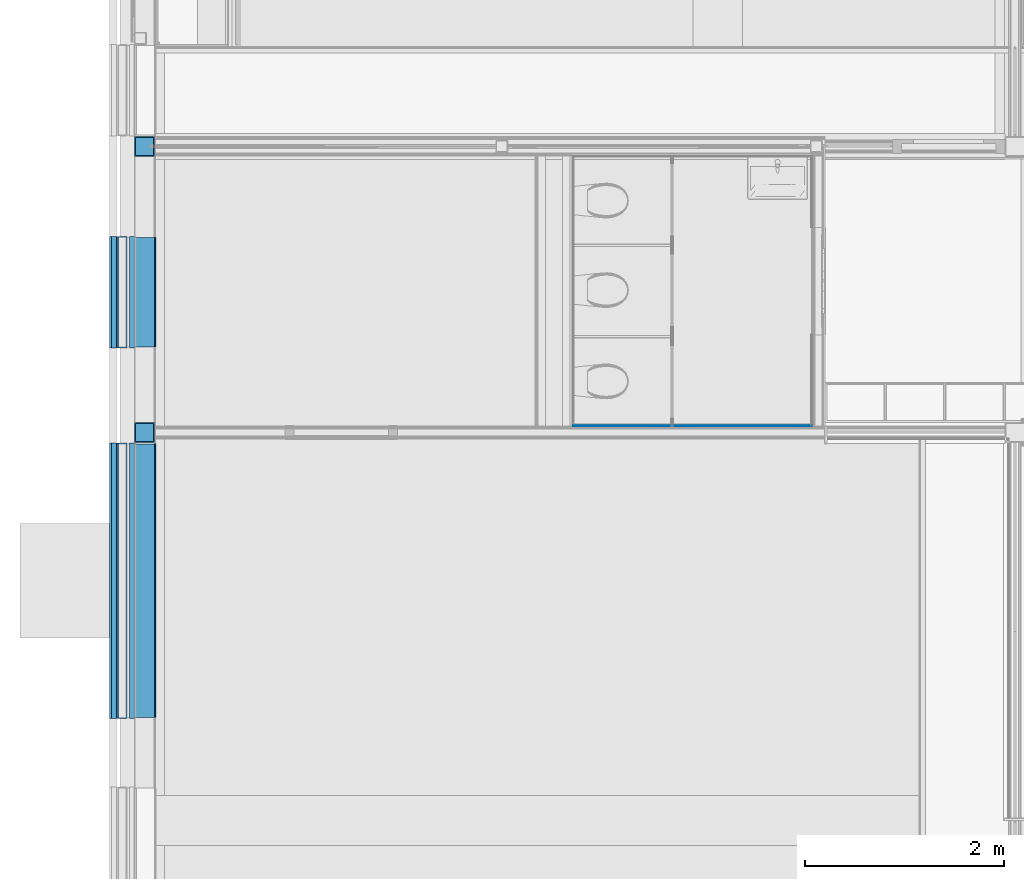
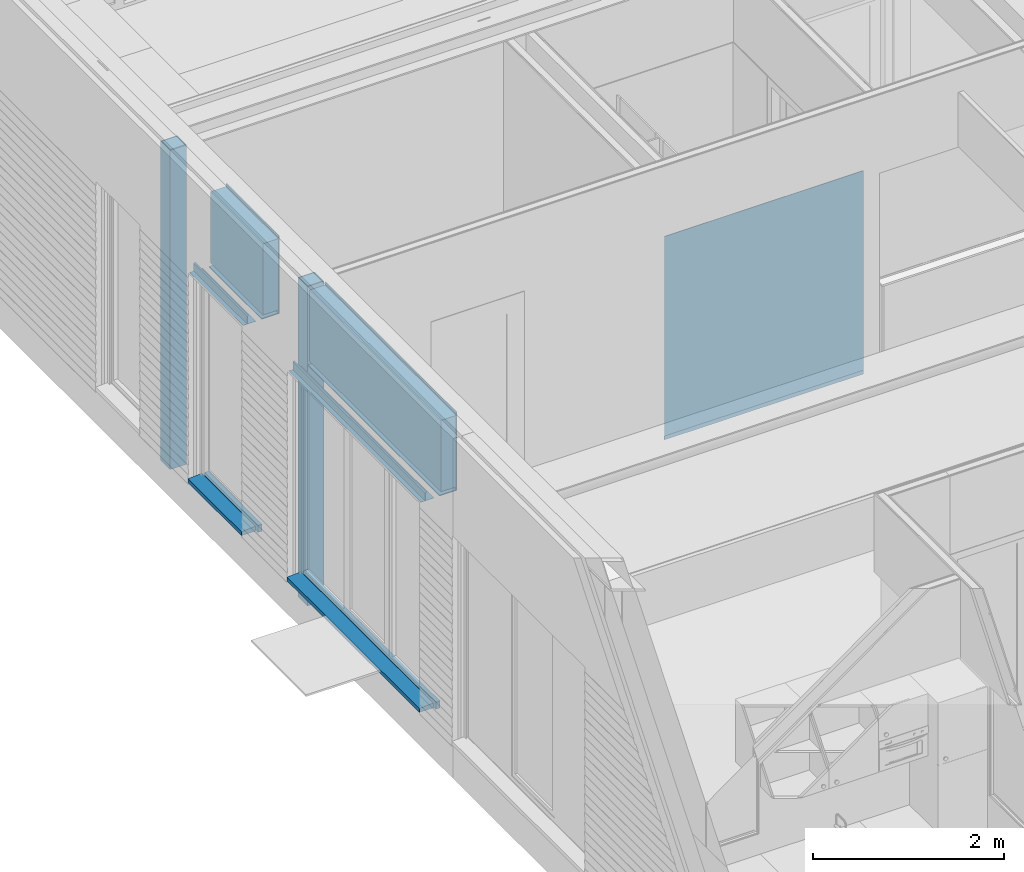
# One storey, part 76 of 165: 20 building element parts, 9 elements without a shape of their own.
"""IFC2X3 building model written with IfcOpenShell, lengths in millimetres."""

from ifc_helpers import new_model, entity, si_unit, converted_unit, derived_unit, money_unit, direction, frame, origin_with_axes, place, context, subcontext, project, spatial, faceted_brep, material, type_object, element, aggregate, save


model = new_model("IFC2X3")

# Units and contexts
model_context = context("Model", 3, precision=0.01, world=origin_with_axes(), true_north=direction((0.0, 1.0)))
body_context = subcontext(model_context, "Body", "Model", "MODEL_VIEW")
ifc_project = project(units=[si_unit("LENGTHUNIT", "METRE", prefix="MILLI"), si_unit("AREAUNIT", "SQUARE_METRE"), si_unit("VOLUMEUNIT", "CUBIC_METRE"), converted_unit("PLANEANGLEUNIT", "DEGREE", entity("IfcPlaneAngleMeasure", 0.0174532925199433), si_unit("PLANEANGLEUNIT", "RADIAN"), dimensions=[0, 0, 0, 0, 0, 0, 0]), money_unit("EUR"), converted_unit("TIMEUNIT", "Year", entity("IfcTimeMeasure", 31556926.0), si_unit("TIMEUNIT", "SECOND"), dimensions=[0, 0, 1, 0, 0, 0, 0]), si_unit("MASSUNIT", "GRAM", prefix="KILO"), si_unit("THERMODYNAMICTEMPERATUREUNIT", "DEGREE_CELSIUS"), si_unit("LUMINOUSINTENSITYUNIT", "LUMEN"), si_unit("ENERGYUNIT", "JOULE", prefix="MEGA"), derived_unit("THERMALCONDUCTANCEUNIT", [(si_unit("POWERUNIT", "WATT"), 1), (si_unit("LENGTHUNIT", "METRE"), -1), (si_unit("THERMODYNAMICTEMPERATUREUNIT", "KELVIN"), -1)]), derived_unit("SPECIFICHEATCAPACITYUNIT", [(si_unit("ENERGYUNIT", "JOULE"), 1), (si_unit("MASSUNIT", "GRAM", prefix="KILO"), -1), (si_unit("THERMODYNAMICTEMPERATUREUNIT", "KELVIN"), -1)]), derived_unit("MASSDENSITYUNIT", [(si_unit("MASSUNIT", "GRAM", prefix="KILO"), 1), (si_unit("VOLUMEUNIT", "CUBIC_METRE"), -1)])], contexts=[model_context])

# Site, building, storey
site_placement = place(None, origin_with_axes())
site = spatial("IfcSite", under=ifc_project, at=site_placement, Name="Site", CompositionType="ELEMENT")
building_placement = place(site_placement, origin_with_axes())
building = spatial("IfcBuilding", under=site, at=building_placement, Name="Naam gebouw", CompositionType="ELEMENT")
storey_placement = place(building_placement, origin_with_axes())
storey = spatial("IfcBuildingStorey", under=building, at=storey_placement, Name="Begane grond", CompositionType="ELEMENT", Elevation=0.0)

# Column, building element parts
column_type = type_object("IfcColumnType", Name="200X200X10 200 x 200", PredefinedType="COLUMN")
column_1_placement = place(storey_placement, frame((99.99999999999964, 19449.9998112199, -480.0), z_axis=(0.0, 0.0, 1.0), x_axis=(1.0, 0.0, 0.0)))
column_1 = element("IfcColumn", 1, at=column_1_placement, inside=storey, type_object=column_type, Name="28_Kolom-x", ObjectType="COLUMN")
ifc_material_1 = material(Name="Metaal - Staal C")
building_element_part_1_placement = place(column_1_placement, origin_with_axes())
building_element_part_1 = element("IfcBuildingElementPart", 2, at=building_element_part_1_placement, material=ifc_material_1, Name="Metaal - Staal C", context=body_context, shape_type="Brep", body=[
    faceted_brep([(-100.0, -100.0000000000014, 0.0), (100.0, -100.0000000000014, 0.0), (100.0, -100.0000000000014, 4079.999999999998), (-100.0, -100.0000000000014, 4079.999999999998), (-100.0, 100.0000000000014, 0.0), (100.0, 100.0000000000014, 0.0), (-90.00000000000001, -89.99999999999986, 0.0), (90.00000000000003, -89.99999999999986, 0.0), (90.00000000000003, 89.99999999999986, 0.0), (-90.00000000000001, 89.99999999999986, 0.0), (100.0, 100.0000000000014, 4079.999999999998), (-100.0, 100.0000000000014, 4079.999999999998), (-90.00000000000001, -89.99999999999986, 4079.999999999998), (-90.00000000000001, 89.99999999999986, 4079.999999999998), (90.00000000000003, 89.99999999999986, 4079.999999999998), (90.00000000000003, -89.99999999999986, 4079.999999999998)], [[[0, 1, 2, 3]], [[0, 4, 5, 1], [6, 7, 8, 9]], [[1, 5, 10, 2]], [[3, 2, 10, 11], [12, 13, 14, 15]], [[4, 0, 3, 11]], [[5, 4, 11, 10]], [[7, 6, 12, 15]], [[8, 7, 15, 14]], [[9, 8, 14, 13]], [[6, 9, 13, 12]]]),
])
ifc_material_2 = material(Name="Beton gewapend C")
building_element_part_2_placement = place(column_1_placement, origin_with_axes())
building_element_part_2 = element("IfcBuildingElementPart", 3, at=building_element_part_2_placement, material=ifc_material_2, Name="Beton gewapend C", context=body_context, shape_type="Brep", body=[
    faceted_brep([(-89.99999999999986, 89.99999999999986, 4059.999999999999), (89.99999999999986, 89.99999999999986, 4059.999999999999), (89.99999999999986, 89.99999999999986, 0.0), (-89.99999999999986, 89.99999999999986, 0.0), (89.99999999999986, -89.99999999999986, 4059.999999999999), (-89.99999999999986, -89.99999999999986, 4059.999999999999), (89.99999999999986, -89.99999999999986, 0.0), (-89.99999999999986, -89.99999999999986, 0.0)], [[[0, 1, 2, 3]], [[4, 1, 0, 5]], [[1, 4, 6, 2]], [[2, 6, 7, 3]], [[5, 0, 3, 7]], [[4, 5, 7, 6]]]),
    faceted_brep([(89.99999999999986, -89.99999999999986, 4074.999999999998), (89.99999999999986, 89.99999999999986, 4074.999999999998), (89.99999999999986, 89.99999999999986, 4079.999999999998), (89.99999999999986, -89.99999999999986, 4079.999999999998), (-89.99999999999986, 89.99999999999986, 4074.999999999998), (-89.99999999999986, -89.99999999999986, 4074.999999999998), (-89.99999999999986, 89.99999999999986, 4079.999999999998), (-89.99999999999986, -89.99999999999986, 4079.999999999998)], [[[0, 1, 2, 3]], [[4, 1, 0, 5]], [[1, 4, 6, 2]], [[2, 6, 7, 3]], [[5, 0, 3, 7]], [[4, 5, 7, 6]]]),
])
aggregate(column_1, [building_element_part_1, building_element_part_2])

column_2_placement = place(storey_placement, frame((100.0000000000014, 22324.99984707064, -480.0), z_axis=(0.0, 0.0, 1.0), x_axis=(1.0, 0.0, 0.0)))
column_2 = element("IfcColumn", 4, at=column_2_placement, inside=storey, type_object=column_type, Name="28_Kolom-x", ObjectType="COLUMN")
building_element_part_3_placement = place(column_2_placement, origin_with_axes())
building_element_part_3 = element("IfcBuildingElementPart", 5, at=building_element_part_3_placement, material=ifc_material_2, Name="Beton gewapend C", context=body_context, shape_type="Brep", body=[
    faceted_brep([(-89.99999999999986, 89.99999999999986, 4059.999999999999), (89.99999999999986, 89.99999999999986, 4059.999999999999), (89.99999999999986, 89.99999999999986, 0.0), (-89.99999999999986, 89.99999999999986, 0.0), (89.99999999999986, -89.99999999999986, 4059.999999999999), (-89.99999999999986, -89.99999999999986, 4059.999999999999), (89.99999999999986, -89.99999999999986, 0.0), (-89.99999999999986, -89.99999999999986, 0.0)], [[[0, 1, 2, 3]], [[4, 1, 0, 5]], [[1, 4, 6, 2]], [[2, 6, 7, 3]], [[5, 0, 3, 7]], [[4, 5, 7, 6]]]),
    faceted_brep([(89.99999999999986, -89.99999999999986, 4074.999999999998), (89.99999999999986, 89.99999999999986, 4074.999999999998), (89.99999999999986, 89.99999999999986, 4079.999999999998), (89.99999999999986, -89.99999999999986, 4079.999999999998), (-89.99999999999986, 89.99999999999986, 4074.999999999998), (-89.99999999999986, -89.99999999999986, 4074.999999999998), (-89.99999999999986, 89.99999999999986, 4079.999999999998), (-89.99999999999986, -89.99999999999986, 4079.999999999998)], [[[0, 1, 2, 3]], [[4, 1, 0, 5]], [[1, 4, 6, 2]], [[2, 6, 7, 3]], [[5, 0, 3, 7]], [[4, 5, 7, 6]]]),
])
building_element_part_4_placement = place(column_2_placement, origin_with_axes())
building_element_part_4 = element("IfcBuildingElementPart", 6, at=building_element_part_4_placement, material=ifc_material_1, Name="Metaal - Staal C", context=body_context, shape_type="Brep", body=[
    faceted_brep([(-100.0, -100.0000000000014, 0.0), (100.0, -100.0000000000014, 0.0), (100.0, -100.0000000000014, 4079.999999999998), (-100.0, -100.0000000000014, 4079.999999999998), (-100.0, 100.0000000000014, 0.0), (100.0, 100.0000000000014, 0.0), (-90.00000000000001, -89.99999999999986, 0.0), (90.00000000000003, -89.99999999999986, 0.0), (90.00000000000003, 89.99999999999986, 0.0), (-90.00000000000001, 89.99999999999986, 0.0), (100.0, 100.0000000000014, 4079.999999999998), (-100.0, 100.0000000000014, 4079.999999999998), (-90.00000000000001, -89.99999999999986, 4079.999999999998), (-90.00000000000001, 89.99999999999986, 4079.999999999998), (90.00000000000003, 89.99999999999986, 4079.999999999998), (90.00000000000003, -89.99999999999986, 4079.999999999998)], [[[0, 1, 2, 3]], [[0, 4, 5, 1], [6, 7, 8, 9]], [[1, 5, 10, 2]], [[3, 2, 10, 11], [12, 13, 14, 15]], [[4, 0, 3, 11]], [[5, 4, 11, 10]], [[7, 6, 12, 15]], [[8, 7, 15, 14]], [[9, 8, 14, 13]], [[6, 9, 13, 12]]]),
])
aggregate(column_2, [building_element_part_3, building_element_part_4])

# Beam, building element parts
beam_type_1 = type_object("IfcBeamType", Name="41 Latei/geveldrager 158 x 112", PredefinedType="BEAM")
beam_1_placement = place(storey_placement, frame((-180.0000861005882, 16574.99981122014, 2610.0), z_axis=(0.0, 0.0, 1.0), x_axis=(1.0, 0.0, 0.0)))
beam_1 = element("IfcBeam", 7, at=beam_1_placement, inside=storey, type_object=beam_type_1, Name="_Regenwaterafvoer-x", ObjectType="BEAM")
building_element_part_5_placement = place(beam_1_placement, origin_with_axes())
building_element_part_5 = element("IfcBuildingElementPart", 8, at=building_element_part_5_placement, material=ifc_material_1, Name="Metaal - Staal C", context=body_context, shape_type="Brep", body=[
    faceted_brep([(3.000000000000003, 2770.000000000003, -3.000000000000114), (108.0, 2770.000000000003, -3.000000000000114), (108.0, 0.0, -3.000000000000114), (3.000000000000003, 0.0, -3.000000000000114), (3.000000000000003, 2770.000000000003, 0.0), (108.0, 2770.000000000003, 0.0), (108.0, 0.0, 0.0), (3.000000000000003, 0.0, 0.0)], [[[0, 1, 2, 3]], [[0, 4, 5, 1]], [[1, 5, 6, 2]], [[3, 2, 6, 7]], [[4, 0, 3, 7]], [[5, 4, 7, 6]]]),
])
building_element_part_6_placement = place(beam_1_placement, origin_with_axes())
building_element_part_6 = element("IfcBuildingElementPart", 9, at=building_element_part_6_placement, material=ifc_material_1, Name="Metaal - Staal C", context=body_context, shape_type="Brep", body=[
    faceted_brep([(-49.99999999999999, 2770.000000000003, 6.55651533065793e-07), (-49.99999999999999, 2770.000000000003, -3.000000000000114), (-49.99999999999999, 0.0, -3.000000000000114), (-49.99999999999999, 0.0, 6.55651533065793e-07), (-5.960468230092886e-08, 2770.000000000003, 6.55651533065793e-07), (-5.960468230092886e-08, 2770.000000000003, 99.3417707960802), (16.54654975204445, 2770.000000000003, 108.894926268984), (18.04655007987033, 2770.000000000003, 106.296849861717), (3.000000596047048, 2770.000000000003, 96.99999988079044), (3.000000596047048, 2770.000000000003, 6.55651533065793e-07), (3.000000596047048, 2770.000000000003, -3.000000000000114), (3.000000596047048, 0.0, -3.000000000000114), (3.000000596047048, 0.0, 6.55651533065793e-07), (3.000000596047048, 0.0, 96.99999988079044), (18.04655007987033, 0.0, 106.296849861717), (16.54654975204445, 0.0, 108.894926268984), (-5.960468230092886e-08, 0.0, 99.3417707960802), (-5.960468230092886e-08, 0.0, 6.55651533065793e-07)], [[[0, 1, 2, 3]], [[0, 4, 5, 6, 7, 8, 9, 10, 1]], [[1, 10, 11, 2]], [[3, 2, 11, 12, 13, 14, 15, 16, 17]], [[4, 0, 3, 17]], [[5, 4, 17, 16]], [[6, 5, 16, 15]], [[7, 6, 15, 14]], [[8, 7, 14, 13]], [[9, 8, 13, 12]], [[10, 9, 12, 11]]]),
])
aggregate(beam_1, [building_element_part_5, building_element_part_6])

beam_2_placement = place(storey_placement, frame((-179.9999999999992, 20299.9998112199, 2610.0), z_axis=(0.0, 0.0, 1.0), x_axis=(1.0, 0.0, 0.0)))
beam_2 = element("IfcBeam", 10, at=beam_2_placement, inside=storey, type_object=beam_type_1, Name="_Regenwaterafvoer-x", ObjectType="BEAM")
building_element_part_7_placement = place(beam_2_placement, origin_with_axes())
building_element_part_7 = element("IfcBuildingElementPart", 11, at=building_element_part_7_placement, material=ifc_material_1, Name="Metaal - Staal C", context=body_context, shape_type="Brep", body=[
    faceted_brep([(3.000000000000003, 1119.999999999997, -3.000000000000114), (108.0, 1119.999999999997, -3.000000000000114), (108.0, 0.0, -3.000000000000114), (3.000000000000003, 0.0, -3.000000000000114), (3.000000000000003, 1119.999999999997, 0.0), (108.0, 1119.999999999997, 0.0), (108.0, 0.0, 0.0), (3.000000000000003, 0.0, 0.0)], [[[0, 1, 2, 3]], [[0, 4, 5, 1]], [[1, 5, 6, 2]], [[3, 2, 6, 7]], [[4, 0, 3, 7]], [[5, 4, 7, 6]]]),
])
building_element_part_8_placement = place(beam_2_placement, origin_with_axes())
building_element_part_8 = element("IfcBuildingElementPart", 12, at=building_element_part_8_placement, material=ifc_material_1, Name="Metaal - Staal C", context=body_context, shape_type="Brep", body=[
    faceted_brep([(-49.99999999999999, 1119.999999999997, 6.55651533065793e-07), (-49.99999999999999, 1119.999999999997, -3.000000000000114), (-49.99999999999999, 0.0, -3.000000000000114), (-49.99999999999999, 0.0, 6.55651533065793e-07), (-5.960468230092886e-08, 1119.999999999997, 6.55651533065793e-07), (-5.960468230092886e-08, 1119.999999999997, 99.3417707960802), (16.54654975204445, 1119.999999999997, 108.894926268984), (18.04655007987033, 1119.999999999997, 106.296849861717), (3.000000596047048, 1119.999999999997, 96.99999988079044), (3.000000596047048, 1119.999999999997, 6.55651533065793e-07), (3.000000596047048, 1119.999999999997, -3.000000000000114), (3.000000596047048, 0.0, -3.000000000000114), (3.000000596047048, 0.0, 6.55651533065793e-07), (3.000000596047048, 0.0, 96.99999988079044), (18.04655007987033, 0.0, 106.296849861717), (16.54654975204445, 0.0, 108.894926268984), (-5.960468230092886e-08, 0.0, 99.3417707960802), (-5.960468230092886e-08, 0.0, 6.55651533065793e-07)], [[[0, 1, 2, 3]], [[0, 4, 5, 6, 7, 8, 9, 10, 1]], [[1, 10, 11, 2]], [[3, 2, 11, 12, 13, 14, 15, 16, 17]], [[4, 0, 3, 17]], [[5, 4, 17, 16]], [[6, 5, 16, 15]], [[7, 6, 15, 14]], [[8, 7, 14, 13]], [[9, 8, 13, 12]], [[10, 9, 12, 11]]]),
])
aggregate(beam_2, [building_element_part_7, building_element_part_8])

beam_type_2 = type_object("IfcBeamType", Name="31 Betondorpel 250 x 90", PredefinedType="BEAM")
beam_3_placement = place(storey_placement, frame((-249.999999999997, 20299.9998112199, -100.0000000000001), z_axis=(0.0, 0.0, 1.0), x_axis=(1.0, 0.0, 0.0)))
beam_3 = element("IfcBeam", 13, at=beam_3_placement, inside=storey, type_object=beam_type_2, Name="_Regenwaterafvoer-x", ObjectType="BEAM")
ifc_material_3 = material(Name="Isolatie - Kunststof hard")
building_element_part_9_placement = place(beam_3_placement, origin_with_axes())
building_element_part_9 = element("IfcBuildingElementPart", 14, at=building_element_part_9_placement, material=ifc_material_3, Name="Isolatie - Kunststof hard", context=body_context, shape_type="Brep", body=[
    faceted_brep([(200.0, 1119.999999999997, 0.0), (249.9999999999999, 1119.999999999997, 0.0), (250.0, 0.0, 0.0), (200.0, 0.0, 0.0), (200.0, 1119.999999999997, 30.04212815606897), (200.0, 1119.999999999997, 90.00000000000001), (249.9999999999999, 1119.999999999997, 90.00000000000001), (250.0, 0.0, 90.00000000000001), (200.0, 0.0, 90.00000000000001), (200.0, 0.0, 30.04212815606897)], [[[0, 1, 2, 3]], [[0, 4, 5, 6, 1]], [[1, 6, 7, 2]], [[3, 2, 7, 8, 9]], [[4, 0, 3, 9]], [[5, 4, 9, 8]], [[6, 5, 8, 7]]]),
])
ifc_material_4 = material(Name="Beton gewapend prefab")
building_element_part_10_placement = place(beam_3_placement, origin_with_axes())
building_element_part_10 = element("IfcBuildingElementPart", 15, at=building_element_part_10_placement, material=ifc_material_4, Name="Beton gewapend prefab", context=body_context, shape_type="Brep", body=[
    faceted_brep([(0.0, 1119.999999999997, 30.04212834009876), (170.0, 1119.999999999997, 30.04212834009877), (170.0, 0.0, 30.04212834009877), (0.0, 0.0, 30.04212834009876), (0.0, 1119.999999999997, 80.04212834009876), (170.0, 1119.999999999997, 90.04212834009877), (170.0, 1119.999999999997, 90.00000000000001), (170.0, 0.0, 90.00000000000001), (170.0, 0.0, 90.04212834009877), (0.0, 0.0, 80.04212834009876)], [[[0, 1, 2, 3]], [[0, 4, 5, 6, 1]], [[1, 6, 7, 2]], [[3, 2, 7, 8, 9]], [[4, 0, 3, 9]], [[5, 4, 9, 8]], [[6, 5, 8, 7]]]),
])
aggregate(beam_3, [building_element_part_9, building_element_part_10])

beam_4_placement = place(storey_placement, frame((-249.9999999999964, 16574.9998112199, -100.0000000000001), z_axis=(0.0, 0.0, 1.0), x_axis=(1.0, 0.0, 0.0)))
beam_4 = element("IfcBeam", 16, at=beam_4_placement, inside=storey, type_object=beam_type_2, Name="_Regenwaterafvoer-x", ObjectType="BEAM")
building_element_part_11_placement = place(beam_4_placement, origin_with_axes())
building_element_part_11 = element("IfcBuildingElementPart", 17, at=building_element_part_11_placement, material=ifc_material_3, Name="Isolatie - Kunststof hard", context=body_context, shape_type="Brep", body=[
    faceted_brep([(200.0, 2770.000000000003, 0.0), (250.0, 2770.000000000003, 0.0), (250.0, 0.0, 0.0), (200.0, 0.0, 0.0), (200.0, 2770.000000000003, 30.04212815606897), (200.0, 2770.000000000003, 90.00000000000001), (250.0, 2770.000000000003, 90.00000000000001), (250.0, 0.0, 90.00000000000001), (200.0, 0.0, 90.00000000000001), (200.0, 0.0, 30.04212815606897)], [[[0, 1, 2, 3]], [[0, 4, 5, 6, 1]], [[1, 6, 7, 2]], [[3, 2, 7, 8, 9]], [[4, 0, 3, 9]], [[5, 4, 9, 8]], [[6, 5, 8, 7]]]),
])
building_element_part_12_placement = place(beam_4_placement, origin_with_axes())
building_element_part_12 = element("IfcBuildingElementPart", 18, at=building_element_part_12_placement, material=ifc_material_4, Name="Beton gewapend prefab", context=body_context, shape_type="Brep", body=[
    faceted_brep([(0.0, 2770.000000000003, 30.04212834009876), (170.0, 2770.000000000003, 30.04212834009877), (170.0, 0.0, 30.04212834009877), (0.0, 0.0, 30.04212834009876), (0.0, 2770.000000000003, 80.04212834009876), (170.0, 2770.000000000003, 90.04212834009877), (170.0, 2770.000000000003, 90.00000000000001), (170.0, 0.0, 90.00000000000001), (170.0, 0.0, 90.04212834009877), (0.0, 0.0, 80.04212834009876)], [[[0, 1, 2, 3]], [[0, 4, 5, 6, 1]], [[1, 6, 7, 2]], [[3, 2, 7, 8, 9]], [[4, 0, 3, 9]], [[5, 4, 9, 8]], [[6, 5, 8, 7]]]),
])
aggregate(beam_4, [building_element_part_11, building_element_part_12])

# Proxy, building element parts
building_element_proxy_type = type_object("IfcBuildingElementProxyType", Name="42 Tegelwerk 2600+ 12 x 2600", PredefinedType="NOTDEFINED")
proxy_placement = place(storey_placement, frame((4425.000000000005, 19532.4998112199, 0.0), z_axis=(0.0, 0.0, 1.0), x_axis=(1.0, 0.0, 0.0)))
proxy = element("IfcBuildingElementProxy", 19, at=proxy_placement, inside=storey, type_object=building_element_proxy_type, Name="_Wand-x")
ifc_material_5 = material(Name="21 STO lijmlaag")
building_element_part_13_placement = place(proxy_placement, origin_with_axes())
building_element_part_13 = element("IfcBuildingElementPart", 20, at=building_element_part_13_placement, material=ifc_material_5, Name="21 STO lijmlaag", context=body_context, shape_type="Brep", body=[
    faceted_brep([(-13.00000447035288, -13.00000447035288, 50.00000000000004), (-13.00000447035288, -13.00000447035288, 2600.0), (2390.000061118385, -13.00000447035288, 2600.0), (2390.000061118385, -13.00000447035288, 50.00000596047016), (-13.00000447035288, -19.99999552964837, 2600.0), (-13.00000447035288, -14.99999850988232, 50.00000000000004), (-13.00000447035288, -19.99999552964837, 50.00000000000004), (2390.000061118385, -19.99999552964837, 2600.0), (2390.000061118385, -14.99999850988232, 50.00000596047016), (2390.000061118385, -19.99999552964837, 50.00000596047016)], [[[0, 1, 2, 3]], [[4, 1, 0, 5, 6]], [[1, 4, 7, 2]], [[8, 3, 2, 7, 9]], [[5, 0, 3, 8]], [[6, 5, 8, 9]], [[4, 6, 9, 7]]]),
])
ifc_material_6 = material(Name="48 vloeivloer Bolidt")
building_element_part_14_placement = place(proxy_placement, origin_with_axes())
building_element_part_14 = element("IfcBuildingElementPart", 21, at=building_element_part_14_placement, material=ifc_material_6, Name="48 vloeivloer Bolidt", context=body_context, shape_type="Brep", body=[
    faceted_brep([(-14.99999850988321, -14.99999850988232, 0.0), (-14.99999850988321, -14.99999850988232, 50.00000596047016), (2390.000061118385, -14.99999850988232, 50.00000596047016), (2390.000061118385, -14.99999850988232, 0.0), (-14.99999850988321, -19.99998360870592, 50.00000596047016), (-14.99999850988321, -19.99998360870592, 0.0), (2390.000061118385, -19.99998360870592, 50.00000596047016), (2390.000061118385, -19.99998360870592, 0.0)], [[[0, 1, 2, 3]], [[4, 1, 0, 5]], [[1, 4, 6, 2]], [[7, 3, 2, 6]], [[5, 0, 3, 7]], [[4, 5, 7, 6]]]),
])
aggregate(proxy, [building_element_part_13, building_element_part_14])

# Beam, building element parts
beam_type_3 = type_object("IfcBeamType", Name="31 HSB boven kozijnen 214 x 1000", PredefinedType="BEAM")
beam_5_placement = place(storey_placement, frame((214.000000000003, 20309.9998112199, 2600.000000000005), z_axis=(0.0, 0.0, 1.0), x_axis=(1.0, 0.0, 0.0)))
beam_5 = element("IfcBeam", 22, at=beam_5_placement, inside=storey, type_object=beam_type_3, Name="28_Balk-x", ObjectType="BEAM")
ifc_material_7 = material(Name="Gipsplaat")
building_element_part_15_placement = place(beam_5_placement, origin_with_axes())
building_element_part_15 = element("IfcBuildingElementPart", 23, at=building_element_part_15_placement, material=ifc_material_7, Name="Gipsplaat", context=body_context, shape_type="Brep", body=[
    faceted_brep([(-11.99999661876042, 1100.000000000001, 0.0), (9.34170968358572e-06, 1100.000000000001, 0.0), (9.34170968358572e-06, 0.0, 0.0), (-11.99999661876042, 0.0, 0.0), (-11.99999661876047, 1100.000000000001, 999.9999999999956), (9.341709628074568e-06, 1100.000000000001, 999.9999999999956), (9.341709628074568e-06, 0.0, 999.9999999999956), (-11.99999661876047, 0.0, 999.9999999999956)], [[[0, 1, 2, 3]], [[0, 4, 5, 1]], [[1, 5, 6, 2]], [[3, 2, 6, 7]], [[4, 0, 3, 7]], [[5, 4, 7, 6]]]),
])
building_element_part_16_placement = place(beam_5_placement, origin_with_axes())
building_element_part_16 = element("IfcBuildingElementPart", 24, at=building_element_part_16_placement, material=ifc_material_7, Name="Gipsplaat", context=body_context, shape_type="Brep", body=[
    faceted_brep([(-214.0000025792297, 1100.000000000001, 12.00000596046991), (-214.0000025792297, 1100.000000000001, 0.0), (-214.0000025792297, 0.0, 0.0), (-214.0000025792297, 0.0, 12.00000596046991), (-11.99999661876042, 1100.000000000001, 12.00000596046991), (-11.99999661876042, 1100.000000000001, 0.0), (-11.99999661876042, 0.0, 0.0), (-11.99999661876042, 0.0, 12.00000596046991)], [[[0, 1, 2, 3]], [[0, 4, 5, 1]], [[1, 5, 6, 2]], [[3, 2, 6, 7]], [[4, 0, 3, 7]], [[5, 4, 7, 6]]]),
])
ifc_material_8 = material(Name="ALG - ISOLATIE")
building_element_part_17_placement = place(beam_5_placement, origin_with_axes())
building_element_part_17 = element("IfcBuildingElementPart", 25, at=building_element_part_17_placement, material=ifc_material_8, Name="ALG - ISOLATIE", context=body_context, shape_type="Brep", body=[
    faceted_brep([(-11.99999999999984, 1100.000000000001, 49.99999999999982), (-11.9999999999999, 1100.000000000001, 961.9999999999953), (-11.9999999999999, 0.0, 961.9999999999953), (-11.99999999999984, 0.0, 49.99999999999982), (-195.9999999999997, 1100.000000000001, 49.99999999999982), (-195.9999999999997, 1100.000000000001, 961.9999999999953), (-195.9999999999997, 0.0, 961.9999999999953), (-195.9999999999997, 0.0, 49.99999999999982)], [[[0, 1, 2, 3]], [[0, 4, 5, 1]], [[1, 5, 6, 2]], [[3, 2, 6, 7]], [[4, 0, 3, 7]], [[5, 4, 7, 6]]]),
])
aggregate(beam_5, [building_element_part_15, building_element_part_16, building_element_part_17])

beam_6_placement = place(storey_placement, frame((214.0000000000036, 16584.9998112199, 2600.000000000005), z_axis=(0.0, 0.0, 1.0), x_axis=(1.0, 0.0, 0.0)))
beam_6 = element("IfcBeam", 26, at=beam_6_placement, inside=storey, type_object=beam_type_3, Name="28_Balk-x", ObjectType="BEAM")
building_element_part_18_placement = place(beam_6_placement, origin_with_axes())
building_element_part_18 = element("IfcBuildingElementPart", 27, at=building_element_part_18_placement, material=ifc_material_7, Name="Gipsplaat", context=body_context, shape_type="Brep", body=[
    faceted_brep([(-11.99999661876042, 2750.0, 0.0), (9.34170968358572e-06, 2750.0, 0.0), (9.34170968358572e-06, 0.0, 0.0), (-11.99999661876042, 0.0, 0.0), (-11.99999661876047, 2750.0, 999.9999999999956), (9.341709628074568e-06, 2750.0, 999.9999999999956), (9.341709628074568e-06, 0.0, 999.9999999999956), (-11.99999661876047, 0.0, 999.9999999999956)], [[[0, 1, 2, 3]], [[0, 4, 5, 1]], [[1, 5, 6, 2]], [[3, 2, 6, 7]], [[4, 0, 3, 7]], [[5, 4, 7, 6]]]),
])
building_element_part_19_placement = place(beam_6_placement, origin_with_axes())
building_element_part_19 = element("IfcBuildingElementPart", 28, at=building_element_part_19_placement, material=ifc_material_8, Name="ALG - ISOLATIE", context=body_context, shape_type="Brep", body=[
    faceted_brep([(-11.99999999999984, 2750.0, 49.99999999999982), (-11.9999999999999, 2750.0, 961.9999999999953), (-11.9999999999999, 0.0, 961.9999999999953), (-11.99999999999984, 0.0, 49.99999999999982), (-195.9999999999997, 2750.0, 49.99999999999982), (-195.9999999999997, 2750.0, 961.9999999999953), (-195.9999999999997, 0.0, 961.9999999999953), (-195.9999999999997, 0.0, 49.99999999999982)], [[[0, 1, 2, 3]], [[0, 4, 5, 1]], [[1, 5, 6, 2]], [[3, 2, 6, 7]], [[4, 0, 3, 7]], [[5, 4, 7, 6]]]),
])
building_element_part_20_placement = place(beam_6_placement, origin_with_axes())
building_element_part_20 = element("IfcBuildingElementPart", 29, at=building_element_part_20_placement, material=ifc_material_7, Name="Gipsplaat", context=body_context, shape_type="Brep", body=[
    faceted_brep([(-214.0000025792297, 2750.0, 12.00000596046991), (-214.0000025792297, 2750.0, 0.0), (-214.0000025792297, 0.0, 0.0), (-214.0000025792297, 0.0, 12.00000596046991), (-11.99999661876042, 2750.0, 12.00000596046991), (-11.99999661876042, 2750.0, 0.0), (-11.99999661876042, 0.0, 0.0), (-11.99999661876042, 0.0, 12.00000596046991)], [[[0, 1, 2, 3]], [[0, 4, 5, 1]], [[1, 5, 6, 2]], [[3, 2, 6, 7]], [[4, 0, 3, 7]], [[5, 4, 7, 6]]]),
])
aggregate(beam_6, [building_element_part_18, building_element_part_19, building_element_part_20])

save(model, "model.ifc")
